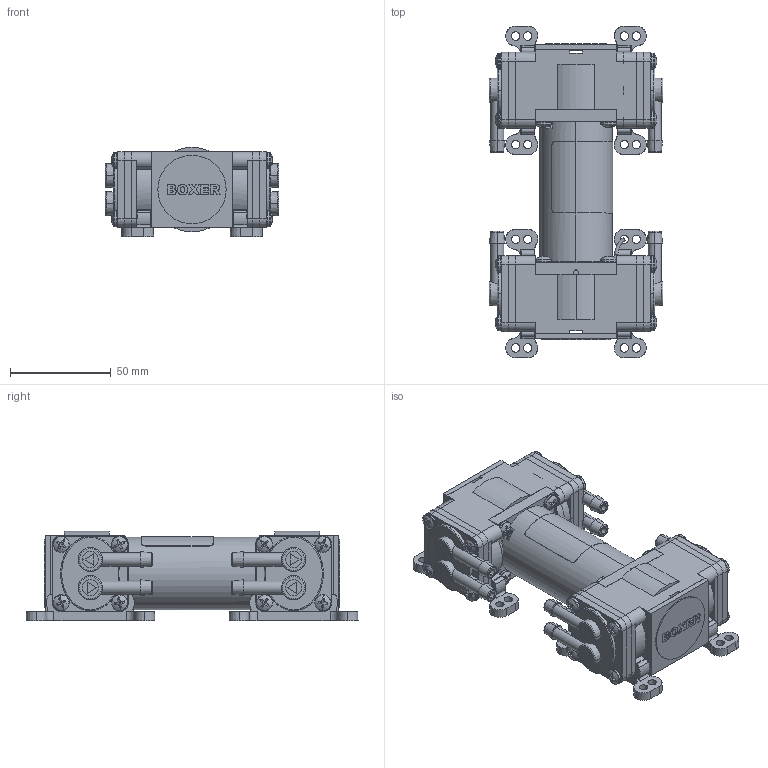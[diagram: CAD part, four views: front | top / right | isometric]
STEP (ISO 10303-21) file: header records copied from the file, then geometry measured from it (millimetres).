
FILE_DESCRIPTION (( 'STEP AP203' ), '1' );
FILE_NAME ('3KQ.STEP', '2018-03-17T16:50:18', ( '' ), ( '' ), 'SwSTEP 2.0', 'SolidWorks 2015', '' );
FILE_SCHEMA (( 'CONFIG_CONTROL_DESIGN' ));
Products named in the file (2): 3KQ
Bounding box: 86.4 x 165.06 x 44.4 mm (x, y, z)
Surface area: 66124.2 mm2 (no closed solid volume)
Topology: 0 solids, 58 shells, 1353 faces, 3950 edges, 2623 vertices
Faces by surface type: plane 671, cylinder 272, torus 184, cone 108, bspline 62, sphere 56
Entity records: 53833 total; most frequent: CARTESIAN_POINT 17580, DIRECTION 7966, ORIENTED_EDGE 6935, EDGE_CURVE 3950, AXIS2_PLACEMENT_3D 3061, VERTEX_POINT 2623, LINE 1844, VECTOR 1844
